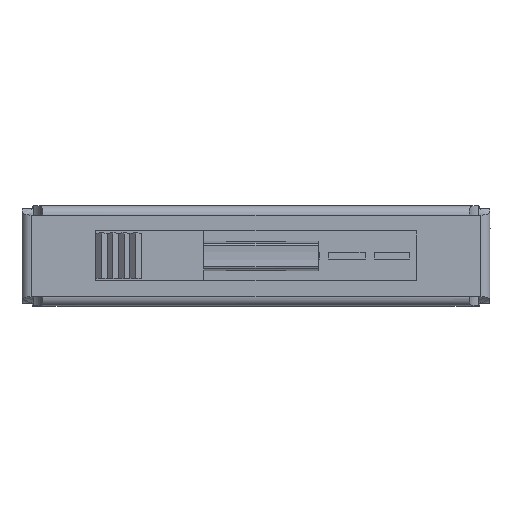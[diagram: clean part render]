
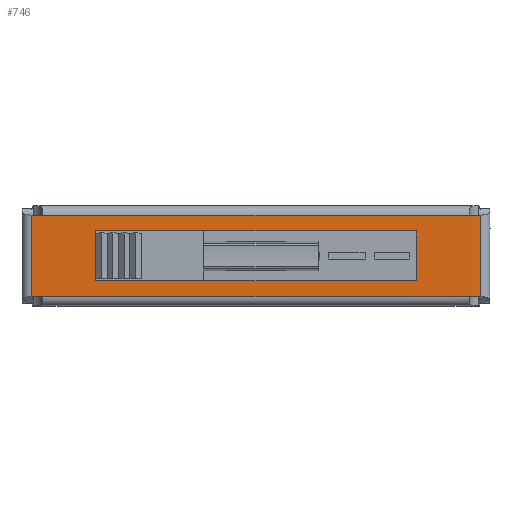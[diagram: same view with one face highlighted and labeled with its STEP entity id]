
A CAD part, top view. The second image highlights one B-rep face of the part: STEP entity #746.
In plain terms, the highlighted planar face has unit normal (0, 0, 1).
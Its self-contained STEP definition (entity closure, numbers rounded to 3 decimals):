
#601=FACE_BOUND('',#3275,.T.);
#746=ADVANCED_FACE('',(#1991,#601),#20381,.T.);
#1991=FACE_OUTER_BOUND('',#3274,.T.);
#3274=EDGE_LOOP('',(#5212,#5213,#5214,#5215,#5216,#5217,#5218,#5219,#5220,
#5221,#5222,#5223));
#3275=EDGE_LOOP('',(#5224,#5225,#5226,#5227));
#5212=ORIENTED_EDGE('',*,*,#11148,.F.);
#5213=ORIENTED_EDGE('',*,*,#11198,.T.);
#5214=ORIENTED_EDGE('',*,*,#11203,.T.);
#5215=ORIENTED_EDGE('',*,*,#11236,.F.);
#5216=ORIENTED_EDGE('',*,*,#11061,.T.);
#5217=ORIENTED_EDGE('',*,*,#11102,.T.);
#5218=ORIENTED_EDGE('',*,*,#11103,.T.);
#5219=ORIENTED_EDGE('',*,*,#11112,.T.);
#5220=ORIENTED_EDGE('',*,*,#11057,.T.);
#5221=ORIENTED_EDGE('',*,*,#11237,.F.);
#5222=ORIENTED_EDGE('',*,*,#11159,.T.);
#5223=ORIENTED_EDGE('',*,*,#11166,.T.);
#5224=ORIENTED_EDGE('',*,*,#11238,.T.);
#5225=ORIENTED_EDGE('',*,*,#11239,.T.);
#5226=ORIENTED_EDGE('',*,*,#11240,.T.);
#5227=ORIENTED_EDGE('',*,*,#11241,.T.);
#11057=EDGE_CURVE('',#17525,#17524,#14560,.T.);
#11061=EDGE_CURVE('',#17530,#17529,#14564,.T.);
#11102=EDGE_CURVE('',#17529,#17556,#14596,.T.);
#11103=EDGE_CURVE('',#17556,#17560,#14597,.T.);
#11112=EDGE_CURVE('',#17560,#17525,#14603,.T.);
#11148=EDGE_CURVE('',#17602,#17603,#14633,.T.);
#11159=EDGE_CURVE('',#17604,#17609,#14641,.T.);
#11166=EDGE_CURVE('',#17609,#17603,#14645,.T.);
#11198=EDGE_CURVE('',#17602,#17626,#14668,.T.);
#11203=EDGE_CURVE('',#17626,#17630,#14673,.T.);
#11236=EDGE_CURVE('',#17530,#17630,#14265,.T.);
#11237=EDGE_CURVE('',#17604,#17524,#14266,.T.);
#11238=EDGE_CURVE('',#17652,#17653,#14703,.T.);
#11239=EDGE_CURVE('',#17653,#17654,#14704,.T.);
#11240=EDGE_CURVE('',#17654,#17655,#14705,.T.);
#11241=EDGE_CURVE('',#17655,#17652,#14706,.T.);
#14265=(
BOUNDED_CURVE()
B_SPLINE_CURVE(1,(#27240,#27241),.UNSPECIFIED.,.F.,.F.)
B_SPLINE_CURVE_WITH_KNOTS((2,2),(-1.528,11.637),
 .UNSPECIFIED.)
CURVE()
GEOMETRIC_REPRESENTATION_ITEM()
RATIONAL_B_SPLINE_CURVE((1.,1.))
REPRESENTATION_ITEM('')
);
#14266=(
BOUNDED_CURVE()
B_SPLINE_CURVE(1,(#27242,#27243),.UNSPECIFIED.,.F.,.F.)
B_SPLINE_CURVE_WITH_KNOTS((2,2),(-1.528,17.246),
 .UNSPECIFIED.)
CURVE()
GEOMETRIC_REPRESENTATION_ITEM()
RATIONAL_B_SPLINE_CURVE((1.,1.))
REPRESENTATION_ITEM('')
);
#14560=B_SPLINE_CURVE_WITH_KNOTS('',1,(#26759,#26760),.UNSPECIFIED.,.F.,
 .F.,(2,2),(-19.7,-19.287),.UNSPECIFIED.);
#14564=B_SPLINE_CURVE_WITH_KNOTS('',1,(#26767,#26768),.UNSPECIFIED.,.F.,
 .F.,(2,2),(19.287,19.7),.UNSPECIFIED.);
#14596=B_SPLINE_CURVE_WITH_KNOTS('',1,(#26882,#26883),.UNSPECIFIED.,.F.,
 .F.,(2,2),(19.7,19.8),.UNSPECIFIED.);
#14597=B_SPLINE_CURVE_WITH_KNOTS('',1,(#26884,#26885),.UNSPECIFIED.,.F.,
 .F.,(2,2),(-3.6,0.),.UNSPECIFIED.);
#14603=B_SPLINE_CURVE_WITH_KNOTS('',1,(#26914,#26915),.UNSPECIFIED.,.F.,
 .F.,(2,2),(-19.8,-19.7),.UNSPECIFIED.);
#14633=B_SPLINE_CURVE_WITH_KNOTS('',1,(#27004,#27005),.UNSPECIFIED.,.F.,
 .F.,(2,2),(-3.6,0.),.UNSPECIFIED.);
#14641=B_SPLINE_CURVE_WITH_KNOTS('',1,(#27053,#27054),.UNSPECIFIED.,.F.,
 .F.,(2,2),(-0.513,-0.1),.UNSPECIFIED.);
#14645=B_SPLINE_CURVE_WITH_KNOTS('',1,(#27070,#27071),.UNSPECIFIED.,.F.,
 .F.,(2,2),(-0.1,0.),.UNSPECIFIED.);
#14668=B_SPLINE_CURVE_WITH_KNOTS('',1,(#27155,#27156),.UNSPECIFIED.,.F.,
 .F.,(2,2),(0.,0.1),.UNSPECIFIED.);
#14673=B_SPLINE_CURVE_WITH_KNOTS('',1,(#27165,#27166),.UNSPECIFIED.,.F.,
 .F.,(2,2),(0.1,0.513),.UNSPECIFIED.);
#14703=B_SPLINE_CURVE_WITH_KNOTS('',1,(#27244,#27245),.UNSPECIFIED.,.F.,
 .F.,(2,2),(0.,2.2),.UNSPECIFIED.);
#14704=B_SPLINE_CURVE_WITH_KNOTS('',1,(#27246,#27247),.UNSPECIFIED.,.F.,
 .F.,(2,2),(2.2,16.3),.UNSPECIFIED.);
#14705=B_SPLINE_CURVE_WITH_KNOTS('',1,(#27248,#27249),.UNSPECIFIED.,.F.,
 .F.,(2,2),(16.3,18.5),.UNSPECIFIED.);
#14706=B_SPLINE_CURVE_WITH_KNOTS('',1,(#27250,#27251),.UNSPECIFIED.,.F.,
 .F.,(2,2),(18.5,32.6),.UNSPECIFIED.);
#17524=VERTEX_POINT('',#25733);
#17525=VERTEX_POINT('',#25734);
#17529=VERTEX_POINT('',#25738);
#17530=VERTEX_POINT('',#25739);
#17556=VERTEX_POINT('',#25765);
#17560=VERTEX_POINT('',#25769);
#17602=VERTEX_POINT('',#25811);
#17603=VERTEX_POINT('',#25812);
#17604=VERTEX_POINT('',#25813);
#17609=VERTEX_POINT('',#25818);
#17626=VERTEX_POINT('',#25835);
#17630=VERTEX_POINT('',#25839);
#17652=VERTEX_POINT('',#25861);
#17653=VERTEX_POINT('',#25862);
#17654=VERTEX_POINT('',#25863);
#17655=VERTEX_POINT('',#25864);
#20381=PLANE('',#20959);
#20959=AXIS2_PLACEMENT_3D('',#22369,#21520,$);
#21520=DIRECTION('',(0.,0.,1.));
#22369=CARTESIAN_POINT('',(38.997,10.,-2.3));
#25733=CARTESIAN_POINT('',(19.71,10.,-2.3));
#25734=CARTESIAN_POINT('',(19.297,10.,-2.3));
#25738=CARTESIAN_POINT('',(19.297,13.6,-2.3));
#25739=CARTESIAN_POINT('',(19.71,13.6,-2.3));
#25765=CARTESIAN_POINT('',(19.197,13.6,-2.3));
#25769=CARTESIAN_POINT('',(19.197,10.,-2.3));
#25811=CARTESIAN_POINT('',(38.997,13.6,-2.3));
#25812=CARTESIAN_POINT('',(38.997,10.,-2.3));
#25813=CARTESIAN_POINT('',(38.484,10.,-2.3));
#25818=CARTESIAN_POINT('',(38.897,10.,-2.3));
#25835=CARTESIAN_POINT('',(38.897,13.6,-2.3));
#25839=CARTESIAN_POINT('',(38.484,13.6,-2.3));
#25861=CARTESIAN_POINT('',(36.147,12.9,-2.3));
#25862=CARTESIAN_POINT('',(36.147,10.7,-2.3));
#25863=CARTESIAN_POINT('',(22.047,10.7,-2.3));
#25864=CARTESIAN_POINT('',(22.047,12.9,-2.3));
#26759=CARTESIAN_POINT('',(19.297,10.,-2.3));
#26760=CARTESIAN_POINT('',(19.71,10.,-2.3));
#26767=CARTESIAN_POINT('',(19.71,13.6,-2.3));
#26768=CARTESIAN_POINT('',(19.297,13.6,-2.3));
#26882=CARTESIAN_POINT('',(19.297,13.6,-2.3));
#26883=CARTESIAN_POINT('',(19.197,13.6,-2.3));
#26884=CARTESIAN_POINT('',(19.197,13.6,-2.3));
#26885=CARTESIAN_POINT('',(19.197,10.,-2.3));
#26914=CARTESIAN_POINT('',(19.197,10.,-2.3));
#26915=CARTESIAN_POINT('',(19.297,10.,-2.3));
#27004=CARTESIAN_POINT('',(38.997,13.6,-2.3));
#27005=CARTESIAN_POINT('',(38.997,10.,-2.3));
#27053=CARTESIAN_POINT('',(38.484,10.,-2.3));
#27054=CARTESIAN_POINT('',(38.897,10.,-2.3));
#27070=CARTESIAN_POINT('',(38.897,10.,-2.3));
#27071=CARTESIAN_POINT('',(38.997,10.,-2.3));
#27155=CARTESIAN_POINT('',(38.997,13.6,-2.3));
#27156=CARTESIAN_POINT('',(38.897,13.6,-2.3));
#27165=CARTESIAN_POINT('',(38.897,13.6,-2.3));
#27166=CARTESIAN_POINT('',(38.484,13.6,-2.3));
#27240=CARTESIAN_POINT('',(19.71,13.6,-2.3));
#27241=CARTESIAN_POINT('',(38.484,13.6,-2.3));
#27242=CARTESIAN_POINT('',(38.484,10.,-2.3));
#27243=CARTESIAN_POINT('',(19.71,10.,-2.3));
#27244=CARTESIAN_POINT('',(36.147,12.9,-2.3));
#27245=CARTESIAN_POINT('',(36.147,10.7,-2.3));
#27246=CARTESIAN_POINT('',(36.147,10.7,-2.3));
#27247=CARTESIAN_POINT('',(22.047,10.7,-2.3));
#27248=CARTESIAN_POINT('',(22.047,10.7,-2.3));
#27249=CARTESIAN_POINT('',(22.047,12.9,-2.3));
#27250=CARTESIAN_POINT('',(22.047,12.9,-2.3));
#27251=CARTESIAN_POINT('',(36.147,12.9,-2.3));
